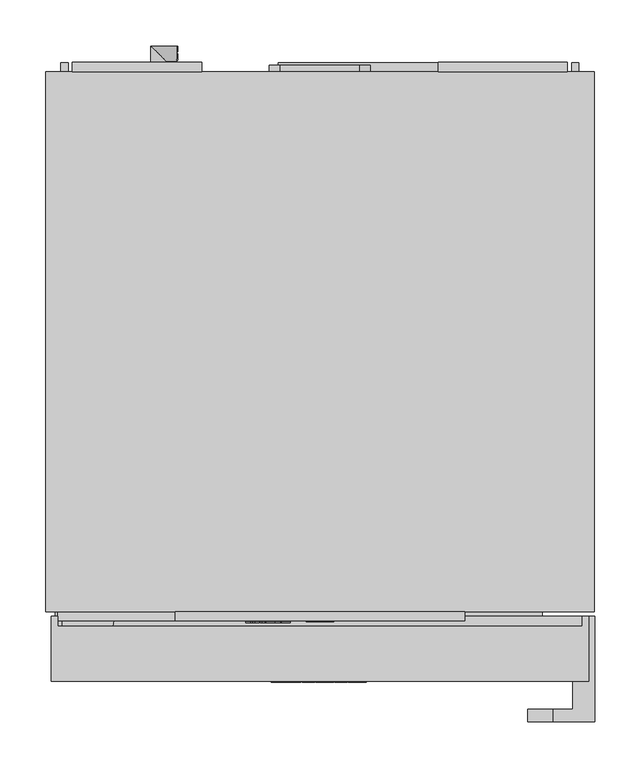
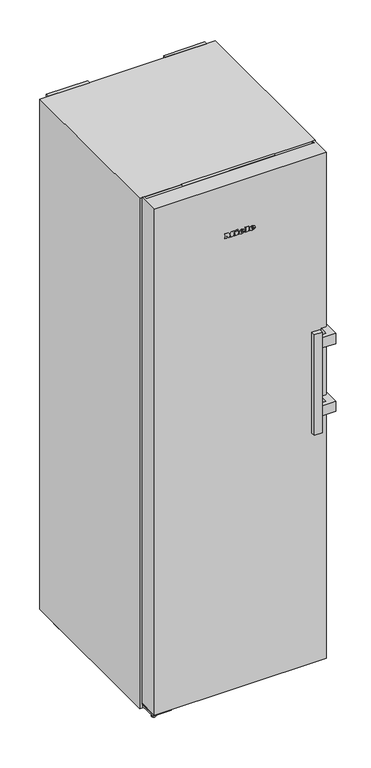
"""IFC4 building model written with IfcOpenShell, lengths in millimetres: proxy geometry, 12303640_EU2_FNS4383E_EL-N : 37438351_EU2_12303640_FNS4383E_EL-N."""

from ifc_helpers import new_model, si_unit, point, frame, frame_2d, origin, origin_with_axes, place, context, project, spatial, polyline, circle_curve, ellipse_curve, trimmed, segment, composite_curve, outline, extrude, faceted_brep, source, transform, mapped, element, save
from ifc_brep_helpers import plane_surface, cylinder_surface, revolved_surface, extruded_surface, advanced_brep


def specialty_equipment_6f414071(model_context):
    return source(origin(), model_context, "Body", "SolidModel", [
        extrude(outline(polyline([(15.0, -609.5), (-15.0, -609.5), (-15.0, -606.5), (15.0, -606.5), (15.0, -609.5)])), frame((0.0, 0.0, 1812.0), z_axis=(0.0, 0.0, 1.0), x_axis=(1.0, 0.0, 0.0)), (0.0, 0.0, 1.0), 28.0),
        extrude(outline(polyline([(1845.5, 105.0), (1845.5, -105.0), (1806.5, -105.0), (1806.5, 105.0), (1845.5, 105.0)]), holes=[polyline([(1840.0, -15.0), (1840.0, 15.0), (1812.0, 15.0), (1812.0, -15.0), (1840.0, -15.0)])]), frame((0.0, -608.5, 0.0), z_axis=(0.0, 1.0, 0.0), x_axis=(0.0, 0.0, 1.0)), (0.0, 0.0, 1.0), 2.0),
        faceted_brep([(157.5, -598.5, 1802.0), (157.5, -608.5, 1802.0), (-157.5, -608.5, 1802.0), (-157.5, -598.5, 1802.0), (157.5, -598.5, 1850.0), (-157.5, -598.5, 1850.0), (-157.5, -608.5, 1850.0), (157.5, -608.5, 1850.0), (-105.0, -608.5, 1845.5), (105.0, -608.5, 1845.5), (105.0, -608.5, 1806.5), (-105.0, -608.5, 1806.5), (105.0, -606.5, 1845.5), (-105.0, -606.5, 1845.5), (-105.0, -606.5, 1806.5), (105.0, -606.5, 1806.5)], [[[0, 1, 2, 3]], [[4, 5, 6, 7]], [[0, 3, 5, 4]], [[3, 2, 6, 5]], [[2, 1, 7, 6], [8, 9, 10, 11]], [[1, 0, 4, 7]], [[12, 13, 14, 15]], [[13, 12, 9, 8]], [[14, 13, 8, 11]], [[15, 14, 11, 10]], [[12, 15, 10, 9]]]),
        advanced_brep(
        [(39.0804776, -675.5, 1668.7956125), (39.0804776, -675.5, 1670.5126125), (50.4534776, -675.5, 1670.5126125), (30.6654776, -675.5, 1670.5126125), (35.3404776, -675.5, 1664.7666125), (50.1644776, -675.5, 1668.7956125), (45.0304776, -675.5, 1668.7956125), (40.9844776, -675.5, 1666.8916125), (39.0804776, -675.5, 1672.6886125), (39.0804776, -675.5, 1674.5416125), (41.9874776, -675.5, 1674.5416125), (41.9874776, -675.5, 1672.6886125), (39.0804776, -674.5, 1668.7956125), (40.9844776, -674.5, 1666.8916125), (45.0304776, -674.5, 1668.7956125), (50.1644776, -674.5, 1668.7956125), (35.3404776, -674.5, 1664.7666125), (30.6654776, -674.5, 1670.5126125), (50.4534776, -674.5, 1670.5126125), (39.0804776, -674.5, 1670.5126125), (39.0804776, -674.5, 1672.6886125), (41.9874776, -674.5, 1672.6886125), (41.9874776, -674.5, 1674.5416125), (39.0804776, -674.5, 1674.5416125)],
        [
            (0, 1),
            (1, 2),
            (2, 3, ellipse_curve(frame((40.5594776, -675.5, 1670.5126125), z_axis=(0.0, -1.0, 0.0), x_axis=(-1.0, 0.0, 0.0)), 9.894, 8.177)),
            (3, 4, circle_curve(frame((37.2445704, -675.5, 1671.0906125), z_axis=(0.0, -1.0, 0.0), x_axis=(0.0, 0.0, -1.0)), 6.6044337)),
            (4, 5, circle_curve(frame((40.361414, -675.5, 1675.5786125), z_axis=(0.0, -1.0, 0.0), x_axis=(0.0, 0.0, -1.0)), 11.9209541)),
            (5, 6),
            (6, 7, circle_curve(frame((41.8154776, -675.5, 1670.3766125), z_axis=(0.0, 1.0, 0.0), x_axis=(0.0, 0.0, -1.0)), 3.5827065)),
            (7, 0, circle_curve(frame((40.9844776, -675.5, 1668.7956125), z_axis=(0.0, 1.0, 0.0), x_axis=(0.0, 0.0, -1.0)), 1.904)),
            (8, 9),
            (9, 10, circle_curve(frame((40.5339776, -675.5, 1674.5416125), z_axis=(0.0, 1.0, 0.0), x_axis=(0.0, 0.0, -1.0)), 1.4535)),
            (10, 11),
            (11, 8),
            (12, 13, circle_curve(frame((40.9844776, -674.5, 1668.7956125), z_axis=(0.0, -1.0, 0.0), x_axis=(0.0, 0.0, -1.0)), 1.904)),
            (13, 14, circle_curve(frame((41.8154776, -674.5, 1670.3766125), z_axis=(0.0, -1.0, 0.0), x_axis=(0.0, 0.0, -1.0)), 3.5827065)),
            (14, 15),
            (15, 16, circle_curve(frame((40.361414, -674.5, 1675.5786125), z_axis=(0.0, 1.0, 0.0), x_axis=(0.0, 0.0, -1.0)), 11.9209541)),
            (16, 17, circle_curve(frame((37.2445704, -674.5, 1671.0906125), z_axis=(0.0, 1.0, 0.0), x_axis=(0.0, 0.0, -1.0)), 6.6044337)),
            (17, 18, ellipse_curve(frame((40.5594776, -674.5, 1670.5126125), z_axis=(0.0, 1.0, 0.0), x_axis=(-1.0, 0.0, 0.0)), 9.894, 8.177)),
            (18, 19),
            (19, 12),
            (20, 21),
            (21, 22),
            (22, 23, circle_curve(frame((40.5339776, -674.5, 1674.5416125), z_axis=(0.0, -1.0, 0.0), x_axis=(0.0, 0.0, -1.0)), 1.4535)),
            (23, 20),
            (0, 12),
            (19, 1),
            (18, 2),
            (5, 15),
            (14, 6),
            (17, 3),
            (13, 7),
            (16, 4),
            (8, 20),
            (23, 9),
            (22, 10),
            (21, 11),
        ],
        [
            plane_surface(frame((39.0804776, -675.5, 1670.5126125), z_axis=(0.0, -1.0, 0.0), x_axis=(0.0, 0.0, 1.0))),
            plane_surface(frame((39.0804776, -674.5, 1670.5126125), z_axis=(0.0, 1.0, 0.0), x_axis=(0.0, 0.0, -1.0))),
            plane_surface(frame((39.0804776, -675.5, 1668.7956125), z_axis=(1.0, 0.0, 0.0), x_axis=(0.0, 1.0, 0.0))),
            plane_surface(frame((39.0804776, -675.5, 1670.5126125), z_axis=(0.0, 0.0, -1.0), x_axis=(0.0, 1.0, 0.0))),
            plane_surface(frame((50.1644776, -675.5, 1668.7956125), z_axis=(0.0, 0.0, 1.0), x_axis=(0.0, 1.0, 0.0))),
            extruded_surface(trimmed(ellipse_curve(frame((40.5594776, -673.5, 1670.5126125), z_axis=(0.0, -1.0, 0.0), x_axis=(-1.0, 0.0, 0.0)), 9.894, 8.177), [point((50.4534776, -673.5, 1670.5126125))], [point((30.6654776, -673.5, 1670.5126125))], True, "CARTESIAN"), (0.0, -1.0, 0.0), 1.0),
            revolved_surface(polyline([(41.8154776, -674.5, 1666.7939059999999), (41.8154776, -675.5, 1666.7939059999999)]), (41.8154776, -674.5, 1670.3766125), (0.0, 1.0, 0.0)),
            revolved_surface(polyline([(40.9844776, -674.5, 1666.8916125), (40.9844776, -675.5, 1666.8916125)]), (40.9844776, -674.5, 1668.7956125), (0.0, 1.0, 0.0)),
            cylinder_surface(frame((37.2445704, -674.5, 1671.0906125), z_axis=(0.0, -1.0, 0.0), x_axis=(0.0, 0.0, -1.0)), 6.6044337),
            cylinder_surface(frame((40.361414, -674.5, 1675.5786125), z_axis=(0.0, -1.0, 0.0), x_axis=(0.0, 0.0, -1.0)), 11.9209541),
            plane_surface(frame((39.0804776, -675.5, 1672.6886125), z_axis=(1.0, 0.0, 0.0), x_axis=(0.0, 1.0, 0.0))),
            revolved_surface(polyline([(40.5339776, -674.5, 1673.0881124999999), (40.5339776, -675.5, 1673.0881124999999)]), (40.5339776, -674.5, 1674.5416125), (0.0, 1.0, 0.0)),
            plane_surface(frame((41.9874776, -675.5, 1674.5416125), z_axis=(-1.0, 0.0, 0.0), x_axis=(0.0, 1.0, 0.0))),
            plane_surface(frame((41.9874776, -675.5, 1672.6886125), z_axis=(0.0, 0.0, 1.0), x_axis=(0.0, 1.0, 0.0))),
        ],
        [
            (0, [[1, 2, 3, 4, 5, 6, 7, 8], [9, 10, 11, 12]]),
            (1, [[13, 14, 15, 16, 17, 18, 19, 20], [21, 22, 23, 24]]),
            (2, [[-1, 25, -20, 26]]),
            (3, [[-2, -26, -19, 27]]),
            (4, [[-6, 28, -15, 29]]),
            (5, [[-3, -27, -18, 30]]),
            (6, [[-7, -29, -14, 31]]),
            (7, [[-8, -31, -13, -25]]),
            (8, [[-4, -30, -17, 32]]),
            (9, [[-5, -32, -16, -28]]),
            (10, [[-9, 33, -24, 34]]),
            (11, [[-10, -34, -23, 35]]),
            (12, [[-11, -35, -22, 36]]),
            (13, [[-12, -36, -21, -33]]),
        ],
    ),
        advanced_brep(
        [(3.6014776, -675.5, 1668.7956125), (3.6014776, -675.5, 1670.5126125), (14.9744776, -675.5, 1670.5126125), (-4.8135224, -675.5, 1670.5126125), (-0.1385224, -675.5, 1664.7666125), (14.6854776, -675.5, 1668.7956125), (9.5514776, -675.5, 1668.7956125), (5.5054776, -675.5, 1666.8916125), (3.6014776, -675.5, 1672.6886125), (3.6014776, -675.5, 1674.5416125), (6.5084776, -675.5, 1674.5416125), (6.5084776, -675.5, 1672.6886125), (3.6014776, -674.5, 1668.7956125), (5.5054776, -674.5, 1666.8916125), (9.5514776, -674.5, 1668.7956125), (14.6854776, -674.5, 1668.7956125), (-0.1385224, -674.5, 1664.7666125), (-4.8135224, -674.5, 1670.5126125), (14.9744776, -674.5, 1670.5126125), (3.6014776, -674.5, 1670.5126125), (3.6014776, -674.5, 1672.6886125), (6.5084776, -674.5, 1672.6886125), (6.5084776, -674.5, 1674.5416125), (3.6014776, -674.5, 1674.5416125)],
        [
            (0, 1),
            (1, 2),
            (2, 3, ellipse_curve(frame((5.0804776, -675.5, 1670.5126125), z_axis=(0.0, -1.0, 0.0), x_axis=(-1.0, 0.0, 0.0)), 9.894, 8.177)),
            (3, 4, circle_curve(frame((1.7655704, -675.5, 1671.0906125), z_axis=(0.0, -1.0, 0.0), x_axis=(0.0, 0.0, -1.0)), 6.6044337)),
            (4, 5, circle_curve(frame((4.882414, -675.5, 1675.5786125), z_axis=(0.0, -1.0, 0.0), x_axis=(0.0, 0.0, -1.0)), 11.9209541)),
            (5, 6),
            (6, 7, circle_curve(frame((6.3364776, -675.5, 1670.3766125), z_axis=(0.0, 1.0, 0.0), x_axis=(0.0, 0.0, -1.0)), 3.5827065)),
            (7, 0, circle_curve(frame((5.5054776, -675.5, 1668.7956125), z_axis=(0.0, 1.0, 0.0), x_axis=(0.0, 0.0, -1.0)), 1.904)),
            (8, 9),
            (9, 10, circle_curve(frame((5.0549776, -675.5, 1674.5416125), z_axis=(0.0, 1.0, 0.0), x_axis=(0.0, 0.0, -1.0)), 1.4535)),
            (10, 11),
            (11, 8),
            (12, 13, circle_curve(frame((5.5054776, -674.5, 1668.7956125), z_axis=(0.0, -1.0, 0.0), x_axis=(0.0, 0.0, -1.0)), 1.904)),
            (13, 14, circle_curve(frame((6.3364776, -674.5, 1670.3766125), z_axis=(0.0, -1.0, 0.0), x_axis=(0.0, 0.0, -1.0)), 3.5827065)),
            (14, 15),
            (15, 16, circle_curve(frame((4.882414, -674.5, 1675.5786125), z_axis=(0.0, 1.0, 0.0), x_axis=(0.0, 0.0, -1.0)), 11.9209541)),
            (16, 17, circle_curve(frame((1.7655704, -674.5, 1671.0906125), z_axis=(0.0, 1.0, 0.0), x_axis=(0.0, 0.0, -1.0)), 6.6044337)),
            (17, 18, ellipse_curve(frame((5.0804776, -674.5, 1670.5126125), z_axis=(0.0, 1.0, 0.0), x_axis=(-1.0, 0.0, 0.0)), 9.894, 8.177)),
            (18, 19),
            (19, 12),
            (20, 21),
            (21, 22),
            (22, 23, circle_curve(frame((5.0549776, -674.5, 1674.5416125), z_axis=(0.0, -1.0, 0.0), x_axis=(0.0, 0.0, -1.0)), 1.4535)),
            (23, 20),
            (0, 12),
            (19, 1),
            (18, 2),
            (5, 15),
            (14, 6),
            (17, 3),
            (13, 7),
            (16, 4),
            (8, 20),
            (23, 9),
            (22, 10),
            (21, 11),
        ],
        [
            plane_surface(frame((3.6014776, -675.5, 1670.5126125), z_axis=(0.0, -1.0, 0.0), x_axis=(0.0, 0.0, 1.0))),
            plane_surface(frame((3.6014776, -674.5, 1670.5126125), z_axis=(0.0, 1.0, 0.0), x_axis=(0.0, 0.0, -1.0))),
            plane_surface(frame((3.6014776, -675.5, 1668.7956125), z_axis=(1.0, 0.0, 0.0), x_axis=(0.0, 1.0, 0.0))),
            plane_surface(frame((3.6014776, -675.5, 1670.5126125), z_axis=(0.0, 0.0, -1.0), x_axis=(0.0, 1.0, 0.0))),
            plane_surface(frame((14.6854776, -675.5, 1668.7956125), z_axis=(0.0, 0.0, 1.0), x_axis=(0.0, 1.0, 0.0))),
            extruded_surface(trimmed(ellipse_curve(frame((5.0804776, -673.5, 1670.5126125), z_axis=(0.0, -1.0, 0.0), x_axis=(-1.0, 0.0, 0.0)), 9.894, 8.177), [point((14.9744776, -673.5, 1670.5126125))], [point((-4.8135224, -673.5, 1670.5126125))], True, "CARTESIAN"), (0.0, -1.0, 0.0), 1.0),
            revolved_surface(polyline([(6.3364776, -674.5, 1666.7939059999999), (6.3364776, -675.5, 1666.7939059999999)]), (6.3364776, -674.5, 1670.3766125), (0.0, 1.0, 0.0)),
            revolved_surface(polyline([(5.5054776, -674.5, 1666.8916125), (5.5054776, -675.5, 1666.8916125)]), (5.5054776, -674.5, 1668.7956125), (0.0, 1.0, 0.0)),
            cylinder_surface(frame((1.7655704, -674.5, 1671.0906125), z_axis=(0.0, -1.0, 0.0), x_axis=(0.0, 0.0, -1.0)), 6.6044337),
            cylinder_surface(frame((4.882414, -674.5, 1675.5786125), z_axis=(0.0, -1.0, 0.0), x_axis=(0.0, 0.0, -1.0)), 11.9209541),
            plane_surface(frame((3.6014776, -675.5, 1672.6886125), z_axis=(1.0, 0.0, 0.0), x_axis=(0.0, 1.0, 0.0))),
            revolved_surface(polyline([(5.0549776, -674.5, 1673.0881124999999), (5.0549776, -675.5, 1673.0881124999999)]), (5.0549776, -674.5, 1674.5416125), (0.0, 1.0, 0.0)),
            plane_surface(frame((6.5084776, -675.5, 1674.5416125), z_axis=(-1.0, 0.0, 0.0), x_axis=(0.0, 1.0, 0.0))),
            plane_surface(frame((6.5084776, -675.5, 1672.6886125), z_axis=(0.0, 0.0, 1.0), x_axis=(0.0, 1.0, 0.0))),
        ],
        [
            (0, [[1, 2, 3, 4, 5, 6, 7, 8], [9, 10, 11, 12]]),
            (1, [[13, 14, 15, 16, 17, 18, 19, 20], [21, 22, 23, 24]]),
            (2, [[-1, 25, -20, 26]]),
            (3, [[-2, -26, -19, 27]]),
            (4, [[-6, 28, -15, 29]]),
            (5, [[-3, -27, -18, 30]]),
            (6, [[-7, -29, -14, 31]]),
            (7, [[-8, -31, -13, -25]]),
            (8, [[-4, -30, -17, 32]]),
            (9, [[-5, -32, -16, -28]]),
            (10, [[-9, 33, -24, 34]]),
            (11, [[-10, -34, -23, 35]]),
            (12, [[-11, -35, -22, 36]]),
            (13, [[-12, -36, -21, -33]]),
        ],
    ),
        extrude(outline(polyline([(1680.7636125, -14.9795224), (1678.0096125, -13.6875224), (1680.6956125, -7.9245224), (1683.4496125, -9.1995224), (1680.7636125, -14.9795224)])), frame((0.0, -675.5, 0.0), z_axis=(0.0, 1.0, 0.0), x_axis=(0.0, 0.0, 1.0)), (0.0, 0.0, 1.0), 1.0),
        extrude(outline(polyline([(1677.6356125, -19.1785224), (1674.5926125, -19.1785224), (1674.5926125, -17.1555224), (1667.6226125, -17.1555224), (1667.6226125, -19.1785224), (1664.7666125, -19.1785224), (1664.7666125, -5.7655224), (1667.6226125, -5.7655224), (1667.6226125, -7.7375224), (1677.6356125, -7.7375224), (1677.6356125, -19.1785224)])), frame((0.0, -675.5, 0.0), z_axis=(0.0, 1.0, 0.0), x_axis=(0.0, 0.0, 1.0)), (0.0, 0.0, 1.0), 1.0),
        extrude(outline(polyline([(1678.9956125, 15.9264776), (1678.9956125, 17.9664776), (1667.6226125, 17.9664776), (1667.6226125, 15.9264776), (1664.7666125, 15.9264776), (1664.7666125, 29.7134776), (1667.6226125, 29.7134776), (1667.6226125, 27.6224776), (1681.7666125, 27.6224776), (1681.7666125, 15.9264776), (1678.9956125, 15.9264776)])), frame((0.0, -675.5, 0.0), z_axis=(0.0, 1.0, 0.0), x_axis=(0.0, 0.0, 1.0)), (0.0, 0.0, 1.0), 1.0),
        extrude(outline(polyline([(1678.9956125, -53.0595224), (1678.9956125, -51.0025224), (1667.6226125, -51.0025224), (1667.6226125, -53.0595224), (1664.7666125, -53.0595224), (1664.7666125, -45.5795224), (1667.6226125, -45.5795224), (1667.6226125, -47.6195224), (1674.7967372, -47.6195224), (1664.7666125, -40.0205224), (1675.2068348, -32.3875224), (1667.6226125, -32.3875224), (1667.6226125, -34.4785224), (1664.7666125, -34.4785224), (1664.7666125, -20.9125224), (1667.6226125, -20.9125224), (1667.6226125, -23.0715224), (1678.9956125, -23.0715224), (1678.9956125, -20.9125224), (1681.7666125, -20.9125224), (1681.7666125, -31.2655224), (1675.3916125, -36.2295224), (1681.7666125, -41.2105224), (1681.7666125, -53.0595224), (1678.9956125, -53.0595224)])), frame((0.0, -675.5, 0.0), z_axis=(0.0, 1.0, 0.0), x_axis=(0.0, 0.0, 1.0)), (0.0, 0.0, 1.0), 1.0),
        advanced_brep(
        [(-37.64, -610.5, 1828.896), (-37.64, -610.5, 1829.704), (-32.288, -610.5, 1829.704), (-41.6, -610.5, 1829.704), (-39.4, -610.5, 1827.0), (-32.424, -610.5, 1828.896), (-34.84, -610.5, 1828.896), (-36.744, -610.5, 1828.0), (-37.64, -610.5, 1830.728), (-37.64, -610.5, 1831.6), (-36.272, -610.5, 1831.6), (-36.272, -610.5, 1830.728), (-37.64, -609.5, 1828.896), (-36.744, -609.5, 1828.0), (-34.84, -609.5, 1828.896), (-32.424, -609.5, 1828.896), (-39.4, -609.5, 1827.0), (-41.6, -609.5, 1829.704), (-32.288, -609.5, 1829.704), (-37.64, -609.5, 1829.704), (-37.64, -609.5, 1830.728), (-36.272, -609.5, 1830.728), (-36.272, -609.5, 1831.6), (-37.64, -609.5, 1831.6)],
        [
            (0, 1),
            (1, 2),
            (2, 3, ellipse_curve(frame((-36.944, -610.5, 1829.704), z_axis=(0.0, -1.0, 0.0), x_axis=(-1.0, 0.0, 0.0)), 4.656, 3.848)),
            (3, 4, circle_curve(frame((-38.5039564, -610.5, 1829.976), z_axis=(0.0, -1.0, 0.0), x_axis=(0.0, 0.0, -1.0)), 3.1079688)),
            (4, 5, circle_curve(frame((-37.0372064, -610.5, 1832.088), z_axis=(0.0, -1.0, 0.0), x_axis=(0.0, 0.0, -1.0)), 5.6098607)),
            (5, 6),
            (6, 7, circle_curve(frame((-36.3529412, -610.5, 1829.64), z_axis=(0.0, 1.0, 0.0), x_axis=(0.0, 0.0, -1.0)), 1.6859795)),
            (7, 0, circle_curve(frame((-36.744, -610.5, 1828.896), z_axis=(0.0, 1.0, 0.0), x_axis=(0.0, 0.0, -1.0)), 0.896)),
            (8, 9),
            (9, 10, circle_curve(frame((-36.956, -610.5, 1831.6), z_axis=(0.0, 1.0, 0.0), x_axis=(0.0, 0.0, -1.0)), 0.684)),
            (10, 11),
            (11, 8),
            (12, 13, circle_curve(frame((-36.744, -609.5, 1828.896), z_axis=(0.0, -1.0, 0.0), x_axis=(0.0, 0.0, -1.0)), 0.896)),
            (13, 14, circle_curve(frame((-36.3529412, -609.5, 1829.64), z_axis=(0.0, -1.0, 0.0), x_axis=(0.0, 0.0, -1.0)), 1.6859795)),
            (14, 15),
            (15, 16, circle_curve(frame((-37.0372064, -609.5, 1832.088), z_axis=(0.0, 1.0, 0.0), x_axis=(0.0, 0.0, -1.0)), 5.6098607)),
            (16, 17, circle_curve(frame((-38.5039564, -609.5, 1829.976), z_axis=(0.0, 1.0, 0.0), x_axis=(0.0, 0.0, -1.0)), 3.1079688)),
            (17, 18, ellipse_curve(frame((-36.944, -609.5, 1829.704), z_axis=(0.0, 1.0, 0.0), x_axis=(-1.0, 0.0, 0.0)), 4.656, 3.848)),
            (18, 19),
            (19, 12),
            (20, 21),
            (21, 22),
            (22, 23, circle_curve(frame((-36.956, -609.5, 1831.6), z_axis=(0.0, -1.0, 0.0), x_axis=(0.0, 0.0, -1.0)), 0.684)),
            (23, 20),
            (0, 12),
            (19, 1),
            (18, 2),
            (5, 15),
            (14, 6),
            (17, 3),
            (13, 7),
            (16, 4),
            (8, 20),
            (23, 9),
            (22, 10),
            (21, 11),
        ],
        [
            plane_surface(frame((-37.64, -610.5, 1829.704), z_axis=(0.0, -1.0, 0.0), x_axis=(0.0, 0.0, 1.0))),
            plane_surface(frame((-37.64, -609.5, 1829.704), z_axis=(0.0, 1.0, 0.0), x_axis=(0.0, 0.0, -1.0))),
            plane_surface(frame((-37.64, -610.5, 1828.896), z_axis=(1.0, 0.0, 0.0), x_axis=(0.0, 1.0, 0.0))),
            plane_surface(frame((-37.64, -610.5, 1829.704), z_axis=(0.0, 0.0, -1.0), x_axis=(0.0, 1.0, 0.0))),
            plane_surface(frame((-32.424, -610.5, 1828.896), z_axis=(0.0, 0.0, 1.0), x_axis=(0.0, 1.0, 0.0))),
            extruded_surface(trimmed(ellipse_curve(frame((-36.944, -608.5, 1829.704), z_axis=(0.0, -1.0, 0.0), x_axis=(-1.0, 0.0, 0.0)), 4.656, 3.848), [point((-32.288, -608.5, 1829.704))], [point((-41.6, -608.5, 1829.704))], True, "CARTESIAN"), (0.0, -1.0, 0.0), 1.0),
            revolved_surface(polyline([(-36.3529412, -609.5, 1827.9540205), (-36.3529412, -610.5, 1827.9540205)]), (-36.3529412, -609.5, 1829.64), (0.0, 1.0, 0.0)),
            revolved_surface(polyline([(-36.744, -609.5, 1828.0), (-36.744, -610.5, 1828.0)]), (-36.744, -609.5, 1828.896), (0.0, 1.0, 0.0)),
            cylinder_surface(frame((-38.5039564, -609.5, 1829.976), z_axis=(0.0, -1.0, 0.0), x_axis=(0.0, 0.0, -1.0)), 3.1079688),
            cylinder_surface(frame((-37.0372064, -609.5, 1832.088), z_axis=(0.0, -1.0, 0.0), x_axis=(0.0, 0.0, -1.0)), 5.6098607),
            plane_surface(frame((-37.64, -610.5, 1830.728), z_axis=(1.0, 0.0, 0.0), x_axis=(0.0, 1.0, 0.0))),
            revolved_surface(polyline([(-36.956, -609.5, 1830.916), (-36.956, -610.5, 1830.916)]), (-36.956, -609.5, 1831.6), (0.0, 1.0, 0.0)),
            plane_surface(frame((-36.272, -610.5, 1831.6), z_axis=(-1.0, 0.0, 0.0), x_axis=(0.0, 1.0, 0.0))),
            plane_surface(frame((-36.272, -610.5, 1830.728), z_axis=(0.0, 0.0, 1.0), x_axis=(0.0, 1.0, 0.0))),
        ],
        [
            (0, [[1, 2, 3, 4, 5, 6, 7, 8], [9, 10, 11, 12]]),
            (1, [[13, 14, 15, 16, 17, 18, 19, 20], [21, 22, 23, 24]]),
            (2, [[-1, 25, -20, 26]]),
            (3, [[-2, -26, -19, 27]]),
            (4, [[-6, 28, -15, 29]]),
            (5, [[-3, -27, -18, 30]]),
            (6, [[-7, -29, -14, 31]]),
            (7, [[-8, -31, -13, -25]]),
            (8, [[-4, -30, -17, 32]]),
            (9, [[-5, -32, -16, -28]]),
            (10, [[-9, 33, -24, 34]]),
            (11, [[-10, -34, -23, 35]]),
            (12, [[-11, -35, -22, 36]]),
            (13, [[-12, -36, -21, -33]]),
        ],
    ),
        advanced_brep(
        [(-54.336, -610.5, 1828.896), (-54.336, -610.5, 1829.704), (-48.984, -610.5, 1829.704), (-58.296, -610.5, 1829.704), (-56.096, -610.5, 1827.0), (-49.12, -610.5, 1828.896), (-51.536, -610.5, 1828.896), (-53.44, -610.5, 1828.0), (-54.336, -610.5, 1830.728), (-54.336, -610.5, 1831.6), (-52.968, -610.5, 1831.6), (-52.968, -610.5, 1830.728), (-54.336, -609.5, 1828.896), (-53.44, -609.5, 1828.0), (-51.536, -609.5, 1828.896), (-49.12, -609.5, 1828.896), (-56.096, -609.5, 1827.0), (-58.296, -609.5, 1829.704), (-48.984, -609.5, 1829.704), (-54.336, -609.5, 1829.704), (-54.336, -609.5, 1830.728), (-52.968, -609.5, 1830.728), (-52.968, -609.5, 1831.6), (-54.336, -609.5, 1831.6)],
        [
            (0, 1),
            (1, 2),
            (2, 3, ellipse_curve(frame((-53.64, -610.5, 1829.704), z_axis=(0.0, -1.0, 0.0), x_axis=(-1.0, 0.0, 0.0)), 4.656, 3.848)),
            (3, 4, circle_curve(frame((-55.1999564, -610.5, 1829.976), z_axis=(0.0, -1.0, 0.0), x_axis=(0.0, 0.0, -1.0)), 3.1079688)),
            (4, 5, circle_curve(frame((-53.7332064, -610.5, 1832.088), z_axis=(0.0, -1.0, 0.0), x_axis=(0.0, 0.0, -1.0)), 5.6098607)),
            (5, 6),
            (6, 7, circle_curve(frame((-53.0489412, -610.5, 1829.64), z_axis=(0.0, 1.0, 0.0), x_axis=(0.0, 0.0, -1.0)), 1.6859795)),
            (7, 0, circle_curve(frame((-53.44, -610.5, 1828.896), z_axis=(0.0, 1.0, 0.0), x_axis=(0.0, 0.0, -1.0)), 0.896)),
            (8, 9),
            (9, 10, circle_curve(frame((-53.652, -610.5, 1831.6), z_axis=(0.0, 1.0, 0.0), x_axis=(0.0, 0.0, -1.0)), 0.684)),
            (10, 11),
            (11, 8),
            (12, 13, circle_curve(frame((-53.44, -609.5, 1828.896), z_axis=(0.0, -1.0, 0.0), x_axis=(0.0, 0.0, -1.0)), 0.896)),
            (13, 14, circle_curve(frame((-53.0489412, -609.5, 1829.64), z_axis=(0.0, -1.0, 0.0), x_axis=(0.0, 0.0, -1.0)), 1.6859795)),
            (14, 15),
            (15, 16, circle_curve(frame((-53.7332064, -609.5, 1832.088), z_axis=(0.0, 1.0, 0.0), x_axis=(0.0, 0.0, -1.0)), 5.6098607)),
            (16, 17, circle_curve(frame((-55.1999564, -609.5, 1829.976), z_axis=(0.0, 1.0, 0.0), x_axis=(0.0, 0.0, -1.0)), 3.1079688)),
            (17, 18, ellipse_curve(frame((-53.64, -609.5, 1829.704), z_axis=(0.0, 1.0, 0.0), x_axis=(-1.0, 0.0, 0.0)), 4.656, 3.848)),
            (18, 19),
            (19, 12),
            (20, 21),
            (21, 22),
            (22, 23, circle_curve(frame((-53.652, -609.5, 1831.6), z_axis=(0.0, -1.0, 0.0), x_axis=(0.0, 0.0, -1.0)), 0.684)),
            (23, 20),
            (0, 12),
            (19, 1),
            (18, 2),
            (5, 15),
            (14, 6),
            (17, 3),
            (13, 7),
            (16, 4),
            (8, 20),
            (23, 9),
            (22, 10),
            (21, 11),
        ],
        [
            plane_surface(frame((-54.336, -610.5, 1829.704), z_axis=(0.0, -1.0, 0.0), x_axis=(0.0, 0.0, 1.0))),
            plane_surface(frame((-54.336, -609.5, 1829.704), z_axis=(0.0, 1.0, 0.0), x_axis=(0.0, 0.0, -1.0))),
            plane_surface(frame((-54.336, -610.5, 1828.896), z_axis=(1.0, 0.0, 0.0), x_axis=(0.0, 1.0, 0.0))),
            plane_surface(frame((-54.336, -610.5, 1829.704), z_axis=(0.0, 0.0, -1.0), x_axis=(0.0, 1.0, 0.0))),
            plane_surface(frame((-49.12, -610.5, 1828.896), z_axis=(0.0, 0.0, 1.0), x_axis=(0.0, 1.0, 0.0))),
            extruded_surface(trimmed(ellipse_curve(frame((-53.64, -608.5, 1829.704), z_axis=(0.0, -1.0, 0.0), x_axis=(-1.0, 0.0, 0.0)), 4.656, 3.848), [point((-48.984, -608.5, 1829.704))], [point((-58.296, -608.5, 1829.704))], True, "CARTESIAN"), (0.0, -1.0, 0.0), 1.0),
            revolved_surface(polyline([(-53.0489412, -609.5, 1827.9540205), (-53.0489412, -610.5, 1827.9540205)]), (-53.0489412, -609.5, 1829.64), (0.0, 1.0, 0.0)),
            revolved_surface(polyline([(-53.44, -609.5, 1828.0), (-53.44, -610.5, 1828.0)]), (-53.44, -609.5, 1828.896), (0.0, 1.0, 0.0)),
            cylinder_surface(frame((-55.1999564, -609.5, 1829.976), z_axis=(0.0, -1.0, 0.0), x_axis=(0.0, 0.0, -1.0)), 3.1079688),
            cylinder_surface(frame((-53.7332064, -609.5, 1832.088), z_axis=(0.0, -1.0, 0.0), x_axis=(0.0, 0.0, -1.0)), 5.6098607),
            plane_surface(frame((-54.336, -610.5, 1830.728), z_axis=(1.0, 0.0, 0.0), x_axis=(0.0, 1.0, 0.0))),
            revolved_surface(polyline([(-53.652, -609.5, 1830.916), (-53.652, -610.5, 1830.916)]), (-53.652, -609.5, 1831.6), (0.0, 1.0, 0.0)),
            plane_surface(frame((-52.968, -610.5, 1831.6), z_axis=(-1.0, 0.0, 0.0), x_axis=(0.0, 1.0, 0.0))),
            plane_surface(frame((-52.968, -610.5, 1830.728), z_axis=(0.0, 0.0, 1.0), x_axis=(0.0, 1.0, 0.0))),
        ],
        [
            (0, [[1, 2, 3, 4, 5, 6, 7, 8], [9, 10, 11, 12]]),
            (1, [[13, 14, 15, 16, 17, 18, 19, 20], [21, 22, 23, 24]]),
            (2, [[-1, 25, -20, 26]]),
            (3, [[-2, -26, -19, 27]]),
            (4, [[-6, 28, -15, 29]]),
            (5, [[-3, -27, -18, 30]]),
            (6, [[-7, -29, -14, 31]]),
            (7, [[-8, -31, -13, -25]]),
            (8, [[-4, -30, -17, 32]]),
            (9, [[-5, -32, -16, -28]]),
            (10, [[-9, 33, -24, 34]]),
            (11, [[-10, -34, -23, 35]]),
            (12, [[-11, -35, -22, 36]]),
            (13, [[-12, -36, -21, -33]]),
        ],
    ),
        extrude(outline(polyline([(1834.528, -63.08), (1833.232, -62.472), (1834.496, -59.76), (1835.792, -60.36), (1834.528, -63.08)])), frame((0.0, -610.5, 0.0), z_axis=(0.0, 1.0, 0.0), x_axis=(0.0, 0.0, 1.0)), (0.0, 0.0, 1.0), 1.0),
        extrude(outline(polyline([(1833.056, -65.056), (1831.624, -65.056), (1831.624, -64.104), (1828.344, -64.104), (1828.344, -65.056), (1827.0, -65.056), (1827.0, -58.744), (1828.344, -58.744), (1828.344, -59.672), (1833.056, -59.672), (1833.056, -65.056)])), frame((0.0, -610.5, 0.0), z_axis=(0.0, 1.0, 0.0), x_axis=(0.0, 0.0, 1.0)), (0.0, 0.0, 1.0), 1.0),
        extrude(outline(polyline([(1833.696, -48.536), (1833.696, -47.576), (1828.344, -47.576), (1828.344, -48.536), (1827.0, -48.536), (1827.0, -42.048), (1828.344, -42.048), (1828.344, -43.032), (1835.0, -43.032), (1835.0, -48.536), (1833.696, -48.536)])), frame((0.0, -610.5, 0.0), z_axis=(0.0, 1.0, 0.0), x_axis=(0.0, 0.0, 1.0)), (0.0, 0.0, 1.0), 1.0),
        extrude(outline(polyline([(1833.696, -81.0), (1833.696, -80.032), (1828.344, -80.032), (1828.344, -81.0), (1827.0, -81.0), (1827.0, -77.48), (1828.344, -77.48), (1828.344, -78.44), (1831.7471247, -78.44), (1827.0, -74.864), (1831.8152223, -71.272), (1828.344, -71.272), (1828.344, -72.256), (1827.0, -72.256), (1827.0, -65.872), (1828.344, -65.872), (1828.344, -66.888), (1833.696, -66.888), (1833.696, -65.872), (1835.0, -65.872), (1835.0, -70.744), (1832.0, -73.08), (1835.0, -75.424), (1835.0, -81.0), (1833.696, -81.0)])), frame((0.0, -610.5, 0.0), z_axis=(0.0, 1.0, 0.0), x_axis=(0.0, 0.0, 1.0)), (0.0, 0.0, 1.0), 1.0),
        extrude(outline(polyline([(-42.8527823, 0.0), (-48.1304417, 3.2708192), (-29.8908031, 3.2708192), (-34.9274229, 0.0), (-42.8527823, 0.0)])), frame((238.5469678, 0.0, 0.0), z_axis=(1.0, 0.0, 0.0), x_axis=(0.0, 1.0, 0.0)), (0.0, 0.0, 1.0), 15.1632647),
        extrude(outline(polyline([(-42.8527823, 0.0), (-48.1304417, 3.2708192), (-29.8908031, 3.2708192), (-34.9274229, 0.0), (-42.8527823, 0.0)])), frame((-253.7102325, 0.0, 0.0), z_axis=(1.0, 0.0, 0.0), x_axis=(0.0, 1.0, 0.0)), (0.0, 0.0, 1.0), 15.1632647),
        extrude(outline(polyline([(2.1227397, 65.0), (2.1227397, 75.045631), (9.343037, 75.045631), (9.343037, 73.7899271), (3.3784436, 73.7899271), (3.3784436, 70.8076304), (9.029111, 70.8076304), (9.029111, 69.5519266), (3.3784436, 69.5519266), (3.3784436, 66.2557039), (9.5, 66.2557039), (9.5, 65.0), (2.1227397, 65.0)])), frame((-156.0615355, 0.0, 0.0), z_axis=(1.0, 0.0, 0.0), x_axis=(0.0, 1.0, 0.0)), (0.0, 0.0, 1.0), 1.0),
        extrude(outline(polyline([(11.3835558, 65.0), (11.3835558, 75.045631), (12.6392597, 75.045631), (12.6392597, 66.2557039), (17.6620752, 66.2557039), (17.6620752, 65.0), (11.3835558, 65.0)])), frame((-156.0615355, 0.0, 0.0), z_axis=(1.0, 0.0, 0.0), x_axis=(0.0, 1.0, 0.0)), (0.0, 0.0, 1.0), 1.0),
        advanced_brep(
        [(-168.0615355, -10.5, 70.0), (-184.0615355, -10.5, 70.0), (-168.0615355, 1.5, 70.0), (-184.0615355, 17.5, 70.0), (-156.0615355, 1.5, 70.0), (-156.0615355, 17.5, 70.0)],
        [
            (0, 1, circle_curve(frame((-176.0615355, -10.5, 70.0), z_axis=(0.0, -1.0, 0.0), x_axis=(-1.0, 0.0, 0.0)), 8.0)),
            (1, 0, circle_curve(frame((-176.0615355, -10.5, 70.0), z_axis=(0.0, -1.0, 0.0), x_axis=(-1.0, 0.0, 0.0)), 8.0)),
            (0, 2),
            (2, 3, ellipse_curve(frame((-176.0615355, 9.5, 70.0), z_axis=(-0.7071067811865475, -0.7071067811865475, 0.0), x_axis=(0.7071067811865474, -0.7071067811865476, 0.0)), 11.3137085, 8.0)),
            (3, 1),
            (3, 2, ellipse_curve(frame((-176.0615355, 9.5, 70.0), z_axis=(-0.7071067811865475, -0.7071067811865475, 0.0), x_axis=(0.7071067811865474, -0.7071067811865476, 0.0)), 11.3137085, 8.0)),
            (4, 5, circle_curve(frame((-156.0615355, 9.5, 70.0), z_axis=(1.0, 0.0, 0.0), x_axis=(0.0, 1.0, 0.0)), 8.0)),
            (5, 4, circle_curve(frame((-156.0615355, 9.5, 70.0), z_axis=(1.0, 0.0, 0.0), x_axis=(0.0, 1.0, 0.0)), 8.0)),
            (2, 4),
            (5, 3),
        ],
        [
            plane_surface(frame((-176.0615355, -10.5, 0.0), z_axis=(0.0, -1.0, 0.0), x_axis=(0.0, 0.0, 1.0))),
            cylinder_surface(frame((-176.0615355, -10.5, 70.0), z_axis=(0.0, -1.0, 0.0), x_axis=(-1.0, 0.0, 0.0)), 8.0),
            plane_surface(frame((-156.0615355, 9.5, 0.0), z_axis=(1.0, 0.0, 0.0), x_axis=(0.0, 0.0, 1.0))),
            cylinder_surface(frame((-176.0615355, 9.5, 70.0), z_axis=(-1.0, 0.0, 0.0), x_axis=(0.0, 1.0, 0.0)), 8.0),
        ],
        [
            (0, [[1, 2]]),
            (1, [[-1, 3, 4, 5]]),
            (1, [[-2, -5, 6, -3]]),
            (2, [[7, 8]]),
            (3, [[-4, 9, -8, 10]]),
            (3, [[-6, -10, -7, -9]]),
        ],
    ),
        extrude(outline(polyline([(-118.9841834, 15.0), (-62.9841834, 15.0), (-75.5706779, 0.0), (-106.3976889, 0.0), (-118.9841834, 15.0)])), frame((-288.5, 0.0, 0.0), z_axis=(1.0, 0.0, 0.0), x_axis=(0.0, 1.0, 0.0)), (0.0, 0.0, 1.0), 16.0),
        extrude(outline(polyline([(-118.9841834, 15.0), (-62.9841834, 15.0), (-75.5706779, 0.0), (-106.3976889, 0.0), (-118.9841834, 15.0)])), frame((272.5, 0.0, 0.0), z_axis=(1.0, 0.0, 0.0), x_axis=(0.0, 1.0, 0.0)), (0.0, 0.0, 1.0), 16.0),
        extrude(outline(polyline([(281.8051758, -10.5), (274.2947998, -10.5), (274.2947998, -0.5), (281.8051758, -0.5), (281.8051758, -10.5)])), frame((0.0, 0.0, 239.4947815), z_axis=(0.0, 0.0, 1.0), x_axis=(1.0, 0.0, 0.0)), (0.0, 0.0, 1.0), 18.4103699),
        extrude(outline(polyline([(-274.0827332, -10.5), (-282.1051331, -10.5), (-282.1051331, -0.5), (-274.0827332, -0.5), (-274.0827332, -10.5)])), frame((0.0, 0.0, 239.4947815), z_axis=(0.0, 0.0, 1.0), x_axis=(1.0, 0.0, 0.0)), (0.0, 0.0, 1.0), 18.3224792),
        extrude(outline(polyline([(190.0, 177.5), (133.0, 177.5), (133.0, -45.5), (64.0, -45.5), (64.0, 258.5), (190.0, 258.5), (190.0, 177.5)])), frame((0.0, -10.5, 0.0), z_axis=(0.0, 1.0, 0.0), x_axis=(0.0, 0.0, 1.0)), (0.0, 0.0, 1.0), 10.0),
        extrude(outline(polyline([(269.5372046, -10.5), (129.0, -10.5), (129.0, 0.0), (269.5372046, 0.0), (269.5372046, -10.5)])), frame((0.0, 0.0, 1826.0), z_axis=(0.0, 0.0, 1.0), x_axis=(1.0, 0.0, 0.0)), (0.0, 0.0, 1.0), 24.0),
        extrude(outline(polyline([(-129.0, -10.5), (-269.5372046, -10.5), (-269.5372046, 0.0), (-129.0, 0.0), (-129.0, -10.5)])), frame((0.0, 0.0, 1826.0), z_axis=(0.0, 0.0, 1.0), x_axis=(1.0, 0.0, 0.0)), (0.0, 0.0, 1.0), 24.0),
        extrude(outline(polyline([(64.0, -159.5), (-64.0, -159.5), (-64.0, -71.5), (64.0, -71.5), (64.0, -159.5)])), frame((0.0, 0.0, 1636.0), z_axis=(0.0, 0.0, 1.0), x_axis=(1.0, 0.0, 0.0)), (0.0, 0.0, 1.0), 177.6535004),
        extrude(outline(polyline([(55.0, -521.5), (55.0, -575.5), (-55.0, -575.5), (-55.0, -521.5), (55.0, -521.5)])), frame((0.0, 0.0, 1759.0), z_axis=(0.0, 0.0, 1.0), x_axis=(1.0, 0.0, 0.0)), (0.0, 0.0, 1.0), 1.0),
        extrude(outline(composite_curve([segment(trimmed(circle_curve(frame_2d((-248.75, -584.5)), 10.0), [point((-258.75, -584.5))], [point((-238.75, -584.5))], False, "CARTESIAN"), True, "CONTINUOUS"), segment(trimmed(circle_curve(frame_2d((-248.75, -584.5)), 10.0), [point((-238.75, -584.5))], [point((-258.75, -584.5))], False, "CARTESIAN"), True, "CONTINUOUS")], self_intersect=False)), origin_with_axes(), (0.0, 0.0, 1.0), 15.0),
        extrude(outline(composite_curve([segment(trimmed(circle_curve(frame_2d((248.75, -584.4761218)), 10.0), [point((238.75, -584.4761218))], [point((258.75, -584.4761218))], False, "CARTESIAN"), True, "CONTINUOUS"), segment(trimmed(circle_curve(frame_2d((248.75, -584.4761218)), 10.0), [point((258.75, -584.4761218))], [point((238.75, -584.4761218))], False, "CARTESIAN"), True, "CONTINUOUS")], self_intersect=False)), origin_with_axes(), (0.0, 0.0, 1.0), 15.0),
        extrude(outline(polyline([(240.0, -290.5), (-240.0, -290.5), (-240.0, -71.5), (240.0, -71.5), (240.0, -290.5)])), frame((0.0, 0.0, 129.0), z_axis=(0.0, 0.0, 1.0), x_axis=(1.0, 0.0, 0.0)), (0.0, 0.0, 1.0), 190.0),
        extrude(outline(composite_curve([segment(trimmed(circle_curve(frame_2d((1162.0, -43.0)), 12.0), [point((1174.0, -43.0))], [point((1162.0, -55.0))], False, "CARTESIAN"), True, "CONTINUOUS"), segment(polyline([(1162.0, -55.0), (1138.0, -55.0)]), True, "CONTINUOUS"), segment(trimmed(circle_curve(frame_2d((1138.0, -43.0)), 12.0), [point((1138.0, -55.0))], [point((1126.0, -43.0))], False, "CARTESIAN"), True, "CONTINUOUS"), segment(polyline([(1126.0, -43.0), (1126.0, 43.0)]), True, "CONTINUOUS"), segment(trimmed(circle_curve(frame_2d((1138.0, 43.0)), 12.0), [point((1126.0, 43.0))], [point((1138.0, 55.0))], False, "CARTESIAN"), True, "CONTINUOUS"), segment(polyline([(1138.0, 55.0), (1162.0, 55.0)]), True, "CONTINUOUS"), segment(trimmed(circle_curve(frame_2d((1162.0, 43.0)), 12.0), [point((1162.0, 55.0))], [point((1174.0, 43.0))], False, "CARTESIAN"), True, "CONTINUOUS"), segment(polyline([(1174.0, 43.0), (1174.0, -43.0)]), True, "CONTINUOUS")], self_intersect=False)), frame((0.0, -10.5, 0.0), z_axis=(0.0, 1.0, 0.0), x_axis=(0.0, 0.0, 1.0)), (0.0, 0.0, 1.0), 7.0),
        extrude(outline(polyline([(272.5, -28.6436023), (272.5, -529.6387407), (-272.5, -529.6387407), (-272.5, -28.6436023), (272.5, -28.6436023)])), frame((0.0, 0.0, 3.2708192), z_axis=(0.0, 0.0, 1.0), x_axis=(1.0, 0.0, 0.0)), (0.0, 0.0, 1.0), 11.7291808),
        faceted_brep([(298.5, -10.5, 1850.0), (-298.5, -10.5, 1850.0), (-298.5, -598.5, 1850.0), (298.5, -598.5, 1850.0), (298.5, -10.5, 15.0), (298.5, -598.5, 15.0), (-298.5, -598.5, 15.0), (-298.5, -10.5, 15.0), (-240.0, -598.5, 1760.0), (240.0, -598.5, 1760.0), (240.0, -598.5, 129.0), (-240.0, -598.5, 129.0), (-240.0, -468.5, 1760.0), (240.0, -468.5, 1760.0), (240.0, -71.5, 129.0), (-240.0, -71.5, 129.0), (240.0, -71.5, 1813.6535004), (-240.0, -71.5, 1813.6535004), (-240.0, -468.5, 1813.6535004), (240.0, -468.5, 1813.6535004)], [[[0, 1, 2, 3]], [[4, 5, 6, 7]], [[1, 0, 4, 7]], [[2, 1, 7, 6]], [[3, 2, 6, 5], [8, 9, 10, 11]], [[0, 3, 5, 4]], [[9, 8, 12, 13]], [[14, 15, 11, 10]], [[15, 14, 16, 17]], [[15, 17, 18, 12, 8, 11]], [[16, 14, 10, 9, 13, 19]], [[19, 18, 17, 16]], [[18, 19, 13, 12]]]),
        extrude(outline(composite_curve([segment(trimmed(circle_curve(frame_2d((-276.9539666, -644.7854989)), 7.0), [point((-269.9539666, -644.7854989))], [point((-283.9539666, -644.7854989))], False, "CARTESIAN"), True, "CONTINUOUS"), segment(trimmed(circle_curve(frame_2d((-276.9539666, -644.7854989)), 7.0), [point((-283.9539666, -644.7854989))], [point((-269.9539666, -644.7854989))], False, "CARTESIAN"), True, "CONTINUOUS")], self_intersect=False)), frame((0.0, 0.0, 10.0), z_axis=(0.0, 0.0, 1.0), x_axis=(1.0, 0.0, 0.0)), (0.0, 0.0, 1.0), 11.0),
        extrude(outline(polyline([(-227.8680756, -660.5), (-291.8779467, -660.5), (-291.8779467, -603.5), (-227.8680756, -603.5), (-227.8680756, -660.5)])), frame((0.0, 0.0, 31.5014777), z_axis=(0.0, 0.0, 1.0), x_axis=(1.0, 0.0, 0.0)), (0.0, 0.0, 1.0), 4.4985223),
        extrude(outline(composite_curve([segment(trimmed(circle_curve(frame_2d((-274.5, -642.5)), 10.0), [point((-264.5, -642.5))], [point((-284.5, -642.5))], False, "CARTESIAN"), True, "CONTINUOUS"), segment(trimmed(circle_curve(frame_2d((-274.5, -642.5)), 10.0), [point((-284.5, -642.5))], [point((-264.5, -642.5))], False, "CARTESIAN"), True, "CONTINUOUS")], self_intersect=False)), frame((0.0, 0.0, 27.5), z_axis=(0.0, 0.0, 1.0), x_axis=(1.0, 0.0, 0.0)), (0.0, 0.0, 1.0), 4.5),
        extrude(outline(polyline([(242.0, -603.5), (-242.0, -603.5), (-242.0, -598.5), (242.0, -598.5), (242.0, -603.5)])), frame((0.0, 0.0, 128.0014777), z_axis=(0.0, 0.0, 1.0), x_axis=(1.0, 0.0, 0.0)), (0.0, 0.0, 1.0), 1639.0),
        extrude(outline(polyline([(253.6000061, -718.5), (226.5, -718.5), (226.5, -704.5), (253.6000061, -704.5), (253.6000061, -718.5)])), frame((0.0, 0.0, 886.0), z_axis=(0.0, 0.0, 1.0), x_axis=(1.0, 0.0, 0.0)), (0.0, 0.0, 1.0), 362.0443098),
        extrude(outline(polyline([(299.5, -718.5), (253.6000061, -718.5), (253.6000061, -704.5), (275.5, -704.5), (275.5, -674.5), (292.5, -674.5), (292.5, -603.5), (299.5, -603.5), (299.5, -718.5)])), frame((0.0, 0.0, 947.0735942), z_axis=(0.0, 0.0, 1.0), x_axis=(1.0, 0.0, 0.0)), (0.0, 0.0, 1.0), 36.1796802),
        extrude(outline(polyline([(299.5, -718.5), (253.6000061, -718.5), (253.6000061, -704.5), (275.5, -704.5), (275.5, -674.5), (292.5, -674.5), (292.5, -603.5), (299.5, -603.5), (299.5, -718.5)])), frame((0.0, 0.0, 1191.0735942), z_axis=(0.0, 0.0, 1.0), x_axis=(1.0, 0.0, 0.0)), (0.0, 0.0, 1.0), 36.1796802),
        extrude(outline(polyline([(-233.3907627, -657.6644264), (-282.5, -657.6644264), (-280.684623, -608.5), (-224.7217479, -608.5), (-233.3907627, -657.6644264)])), frame((0.0, 0.0, 1817.6745089), z_axis=(0.0, 0.0, 1.0), x_axis=(1.0, 0.0, 0.0)), (0.0, 0.0, 1.0), 23.7898602),
        extrude(outline(polyline([(-157.5, -608.5), (-285.5, -608.5), (-285.5, -598.5), (-157.5, -598.5), (-157.5, -608.5)])), frame((0.0, 0.0, 1800.5014777), z_axis=(0.0, 0.0, 1.0), x_axis=(1.0, 0.0, 0.0)), (0.0, 0.0, 1.0), 48.0),
        extrude(outline(polyline([(-598.5, 21.0), (-660.5, 21.0), (-660.5, 27.0014777), (-603.5, 27.0014777), (-603.5, 69.0014777), (-598.5, 69.0014777), (-598.5, 21.0)])), frame((-288.5, 0.0, 0.0), z_axis=(1.0, 0.0, 0.0), x_axis=(0.0, 1.0, 0.0)), (0.0, 0.0, 1.0), 62.0),
        advanced_brep(
        [(292.5, -674.5, 1854.0), (-292.5, -674.5, 1854.0), (-292.5, -674.5, 36.0), (292.5, -674.5, 36.0), (292.5, -603.5, 1854.0), (292.5, -603.5, 36.0), (222.5, -603.5, 36.0), (222.5, -603.5, 66.0), (-222.5, -603.5, 66.0), (-222.5, -603.5, 36.0), (-292.5, -603.5, 36.0), (-292.5, -603.5, 1854.0), (-285.5, -603.5, 1854.0), (-285.5, -603.5, 1848.5014777), (-287.5, -603.5, 1848.5014777), (-287.5, -603.5, 1797.0), (285.5, -603.5, 1797.0), (285.5, -603.5, 1854.0), (285.5, -614.5, 1854.0), (-285.5, -614.5, 1854.0), (-222.5, -645.4397305, 36.0), (222.5, -645.4397305, 36.0), (222.5, -617.5, 66.0), (-222.5, -617.5, 66.0), (285.5, -614.5, 1797.0), (-194.5, -614.5, 1797.0), (-194.5, -614.5, 1848.5014777), (-285.5, -614.5, 1848.5014777), (-287.5, -660.3426016, 1797.0), (-194.5, -660.3426016, 1797.0), (-194.5, -660.3426016, 1848.5014777), (-287.5, -660.3426016, 1848.5014777)],
        [
            (0, 1),
            (1, 2),
            (2, 3),
            (3, 0),
            (4, 5),
            (5, 6),
            (6, 7),
            (7, 8),
            (8, 9),
            (9, 10),
            (10, 11),
            (11, 12),
            (12, 13),
            (13, 14),
            (14, 15),
            (15, 16),
            (16, 17),
            (17, 4),
            (0, 4),
            (17, 18),
            (18, 19),
            (19, 12),
            (11, 1),
            (10, 2),
            (9, 20),
            (20, 21),
            (21, 6),
            (5, 3),
            (22, 7),
            (21, 22, circle_curve(frame((222.5, -612.8834964, 33.6900621), z_axis=(-1.0, 0.0, 0.0), x_axis=(0.0, 1.0, 0.0)), 32.6380788)),
            (23, 20, circle_curve(frame((-222.5, -612.8834964, 33.6900621), z_axis=(1.0, 0.0, 0.0), x_axis=(0.0, 1.0, 0.0)), 32.6380788)),
            (8, 23),
            (23, 22),
            (18, 24),
            (24, 25),
            (25, 26),
            (26, 27),
            (27, 19),
            (24, 16),
            (15, 28),
            (28, 29),
            (29, 25),
            (30, 29),
            (28, 31),
            (31, 30),
            (30, 26),
            (14, 31),
            (13, 27),
        ],
        [
            plane_surface(frame((-292.5, -674.5, 1854.0), z_axis=(0.0, -1.0, 0.0), x_axis=(-1.0, 0.0, 0.0))),
            plane_surface(frame((-292.5, -603.5, 1854.0), z_axis=(0.0, 1.0, 0.0), x_axis=(1.0, 0.0, 0.0))),
            plane_surface(frame((292.5, -674.5, 1854.0), z_axis=(0.0, 0.0, 1.0), x_axis=(0.0, 1.0, 0.0))),
            plane_surface(frame((-292.5, -674.5, 1854.0), z_axis=(-1.0, 0.0, 0.0), x_axis=(0.0, 1.0, 0.0))),
            plane_surface(frame((-292.5, -674.5, 36.0), z_axis=(0.0, 0.0, -1.0), x_axis=(0.0, 1.0, 0.0))),
            plane_surface(frame((292.5, -674.5, 36.0), z_axis=(1.0, 0.0, 0.0), x_axis=(0.0, 1.0, 0.0))),
            plane_surface(frame((222.5, -580.2454176, 33.6900621), z_axis=(-1.0, 0.0, 0.0), x_axis=(0.0, 0.0, 1.0))),
            plane_surface(frame((-222.5, -580.2454176, 33.6900621), z_axis=(1.0, 0.0, 0.0), x_axis=(0.0, 0.0, -1.0))),
            revolved_surface(polyline([(222.5, -580.2454176, 33.6900621), (-222.5, -580.2454176, 33.6900621)]), (-222.5, -612.8834964, 33.6900621), (1.0, 0.0, 0.0)),
            plane_surface(frame((222.5, -603.5, 66.0), z_axis=(0.0, 0.0, -1.0), x_axis=(-1.0, 0.0, 0.0))),
            plane_surface(frame((285.5, -614.5, 1867.7474822), z_axis=(0.0, 1.0, 0.0), x_axis=(-1.0, 0.0, 0.0))),
            plane_surface(frame((285.5, -614.5, 1797.0), z_axis=(0.0, 0.0, 1.0), x_axis=(-1.0, 0.0, 0.0))),
            plane_surface(frame((-287.5, -660.3426016, 1848.5014777), z_axis=(0.0, 1.0, 0.0), x_axis=(-1.0, 0.0, 0.0))),
            plane_surface(frame((-194.5, -660.3426016, 1797.0), z_axis=(-1.0, 0.0, 0.0), x_axis=(0.0, 1.0, 0.0))),
            plane_surface(frame((-287.5, -660.3426016, 1848.5014777), z_axis=(1.0, 0.0, 0.0), x_axis=(0.0, 1.0, 0.0))),
            plane_surface(frame((-194.5, -660.3426016, 1848.5014777), z_axis=(0.0, 0.0, -1.0), x_axis=(0.0, 1.0, 0.0))),
            plane_surface(frame((285.5, -603.5, 1797.0), z_axis=(-1.0, 0.0, 0.0), x_axis=(0.0, 0.0, 1.0))),
            plane_surface(frame((-285.5, -603.5, 1797.0), z_axis=(1.0, 0.0, 0.0), x_axis=(0.0, 0.0, -1.0))),
        ],
        [
            (0, [[1, 2, 3, 4]]),
            (1, [[5, 6, 7, 8, 9, 10, 11, 12, 13, 14, 15, 16, 17, 18]]),
            (2, [[-1, 19, -18, 20, 21, 22, -12, 23]]),
            (3, [[-2, -23, -11, 24]]),
            (4, [[-3, -24, -10, 25, 26, 27, -6, 28]]),
            (5, [[-4, -28, -5, -19]]),
            (6, [[29, -7, -27, 30]]),
            (7, [[31, -25, -9, 32]]),
            (8, [[-30, -26, -31, 33]]),
            (9, [[-29, -33, -32, -8]]),
            (10, [[34, 35, 36, 37, 38, -21]]),
            (11, [[39, -16, 40, 41, 42, -35]]),
            (12, [[43, -41, 44, 45]]),
            (13, [[-43, 46, -36, -42]]),
            (14, [[-44, -40, -15, 47]]),
            (15, [[-45, -47, -14, 48, -37, -46]]),
            (16, [[-39, -34, -20, -17]]),
            (17, [[-22, -38, -48, -13]]),
        ],
    ),
    ])


if __name__ == "__main__":
    model = new_model("IFC4")
    model_context = context("Model", 3, world=origin())
    ifc_project = project(units=[si_unit("LENGTHUNIT", "METRE", prefix="MILLI")], contexts=[model_context])
    site = spatial("IfcSite", under=ifc_project)
    building = spatial("IfcBuilding", under=site)
    placement = place(None, origin())
    specialty_equipment_shape = specialty_equipment_6f414071(model_context)
    element("IfcBuildingElementProxy", 1, Name="12303640_EU2_FNS4383E_EL-N : 37438351_EU2_12303640_FNS4383E_EL-N", ObjectType="12303640_EU2_FNS4383E_EL-N : 37438351_EU2_12303640_FNS4383E_EL-N", at=placement, inside=building, context=model_context, shape_type="MappedRepresentation", body=[
        mapped(specialty_equipment_shape, transform((0.0, 0.0, 0.0), x_axis=(1.0, 0.0, 0.0), y_axis=(0.0, 1.0, 0.0), z_axis=(0.0, 0.0, 1.0))),
    ])
    save(model, "model.ifc")
